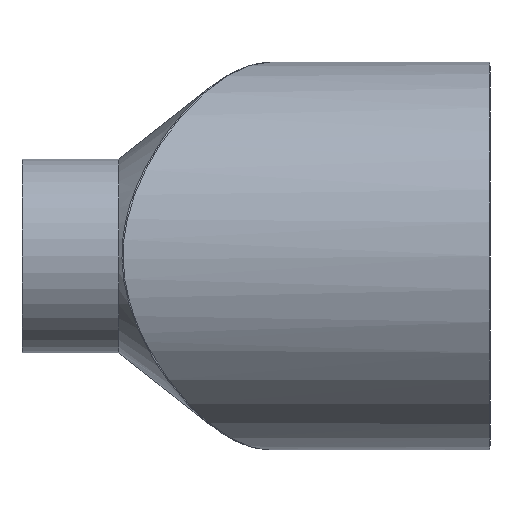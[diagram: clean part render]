
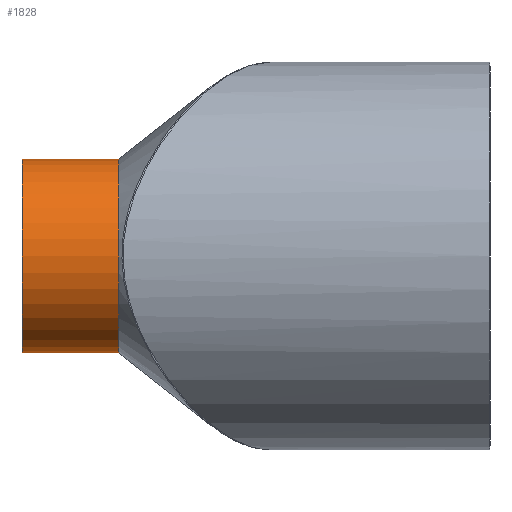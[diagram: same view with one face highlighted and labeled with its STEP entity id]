
A CAD part, front view. The second image highlights one B-rep face of the part: STEP entity #1828.
In plain terms, the highlighted cylindrical face has radius 38.1 mm (diameter 76.2 mm), a partial arc.
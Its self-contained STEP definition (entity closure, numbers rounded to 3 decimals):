
#2 = CYLINDRICAL_SURFACE ( 'NONE', #371, 38.1 ) ;
#62 = CARTESIAN_POINT ( 'NONE',  ( -146.05, -36.98, -38.1 ) ) ;
#223 = DIRECTION ( 'NONE',  ( 1., 0., 0. ) ) ;
#250 = VERTEX_POINT ( 'NONE', #595 ) ;
#298 = EDGE_CURVE ( 'NONE', #1842, #250, #1102, .T. ) ;
#371 = AXIS2_PLACEMENT_3D ( 'NONE', #966, #223, #1241 ) ;
#390 = CARTESIAN_POINT ( 'NONE',  ( -184.15, -36.98, 38.1 ) ) ;
#426 = DIRECTION ( 'NONE',  ( 1., 0., 0. ) ) ;
#444 = ORIENTED_EDGE ( 'NONE', *, *, #1353, .T. ) ;
#470 = EDGE_CURVE ( 'NONE', #1639, #1824, #593, .T. ) ;
#497 = AXIS2_PLACEMENT_3D ( 'NONE', #930, #934, #936 ) ;
#522 = EDGE_LOOP ( 'NONE', ( #1776, #444, #1361, #1365 ) ) ;
#555 = FACE_OUTER_BOUND ( 'NONE', #522, .T. ) ;
#593 = LINE ( 'NONE', #722, #1348 ) ;
#595 = CARTESIAN_POINT ( 'NONE',  ( -146.05, -36.98, 38.1 ) ) ;
#716 = DIRECTION ( 'NONE',  ( 1., 0., 0. ) ) ;
#722 = CARTESIAN_POINT ( 'NONE',  ( -119.389, -36.98, -38.1 ) ) ;
#930 = CARTESIAN_POINT ( 'NONE',  ( -146.05, -36.98, 0. ) ) ;
#934 = DIRECTION ( 'NONE',  ( 1., 0., 0. ) ) ;
#936 = DIRECTION ( 'NONE',  ( 0., 0., -1. ) ) ;
#966 = CARTESIAN_POINT ( 'NONE',  ( -119.389, -36.98, 0. ) ) ;
#985 = CARTESIAN_POINT ( 'NONE',  ( -119.389, -36.98, 38.1 ) ) ;
#1004 = VECTOR ( 'NONE', #426, 1000. ) ;
#1038 = CARTESIAN_POINT ( 'NONE',  ( -184.15, -36.98, -38.1 ) ) ;
#1091 = EDGE_CURVE ( 'NONE', #250, #1824, #1347, .T. ) ;
#1102 = LINE ( 'NONE', #985, #1004 ) ;
#1241 = DIRECTION ( 'NONE',  ( 0., 0., -1. ) ) ;
#1316 = DIRECTION ( 'NONE',  ( 0., 0., -1. ) ) ;
#1321 = DIRECTION ( 'NONE',  ( 1., 0., 0. ) ) ;
#1325 = CARTESIAN_POINT ( 'NONE',  ( -184.15, -36.98, 0. ) ) ;
#1347 = CIRCLE ( 'NONE', #497, 38.1 ) ;
#1348 = VECTOR ( 'NONE', #716, 1000. ) ;
#1353 = EDGE_CURVE ( 'NONE', #1842, #1639, #1725, .T. ) ;
#1361 = ORIENTED_EDGE ( 'NONE', *, *, #470, .T. ) ;
#1365 = ORIENTED_EDGE ( 'NONE', *, *, #1091, .F. ) ;
#1639 = VERTEX_POINT ( 'NONE', #1038 ) ;
#1672 = AXIS2_PLACEMENT_3D ( 'NONE', #1325, #1321, #1316 ) ;
#1725 = CIRCLE ( 'NONE', #1672, 38.1 ) ;
#1776 = ORIENTED_EDGE ( 'NONE', *, *, #298, .F. ) ;
#1824 = VERTEX_POINT ( 'NONE', #62 ) ;
#1828 = ADVANCED_FACE ( 'NONE', ( #555 ), #2, .T. ) ;
#1842 = VERTEX_POINT ( 'NONE', #390 ) ;
